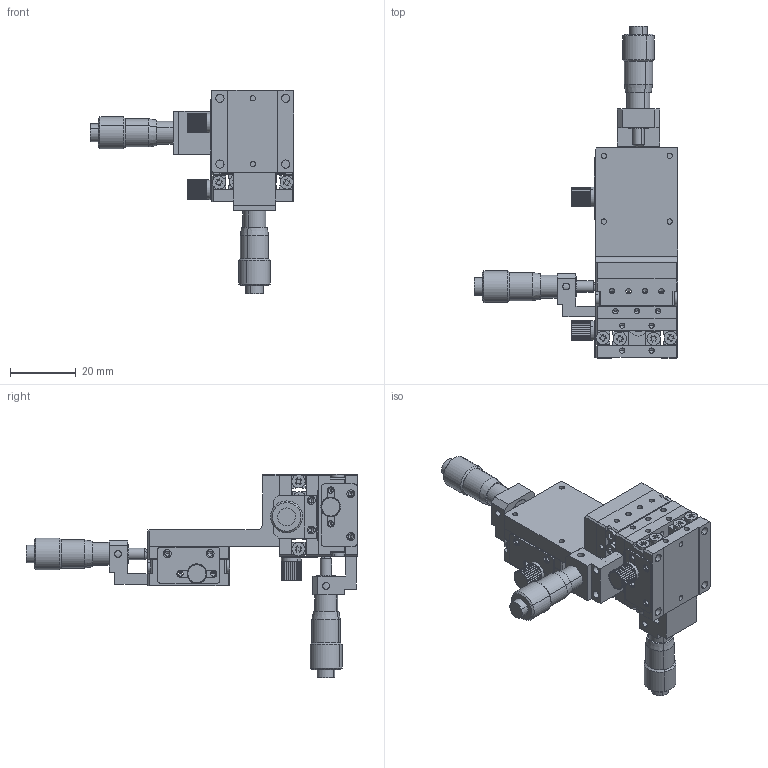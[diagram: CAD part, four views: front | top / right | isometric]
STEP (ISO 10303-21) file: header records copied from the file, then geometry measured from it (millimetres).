
FILE_DESCRIPTION (( 'STEP AP203' ), '1' );
FILE_NAME ('JXYZ-25C-12H.STEP', '2023-03-14T07:49:51', ( '微软用户' ), ( '微软中国' ), 'SwSTEP 2.0', 'SolidWorks 2018', '' );
FILE_SCHEMA (( 'CONFIG_CONTROL_DESIGN' ));
Length unit declared in the file: millimetre
Products named in the file (14): JX-25C(MIR)-12H; JX-25-01奻裔; JALB-71-R    0-6.5埴芛ロ煦喜; JX-25-08 癹弇え; FC-SJ-2 菜え; JZ-25C(MIR)-12H; JX-25-07 L啣; FC-NB-6   幗豪蹟佪; JXYZ-25C-12H; JX-25-02狟裔; JX-25-06 C千分尺固定块; JXY-25C-12H; JX-25C-12H; 蹟佪
Assembly tree (50 placements, depth 4):
  JXYZ-25C-12H
    JXY-25C-12H
      JX-25C-12H
        JX-25-02狟裔
        JX-25-01奻裔
        蹟佪  x8
        JX-25-08 癹弇え
        FC-NB-6   幗豪蹟佪
        FC-SJ-2 菜え
        JALB-71-R    0-6.5埴芛ロ煦喜
        JX-25-06 C千分尺固定块
      JX-25C(MIR)-12H
        JX-25-02狟裔
        JX-25-01奻裔
        蹟佪  x8
        JX-25-08 癹弇え
        FC-NB-6   幗豪蹟佪
        FC-SJ-2 菜え
        JALB-71-R    0-6.5埴芛ロ煦喜
        JX-25-06 C千分尺固定块
    JZ-25C(MIR)-12H
      JX-25-02狟裔
      JX-25-01奻裔
      蹟佪  x8
      JX-25-08 癹弇え
      FC-NB-6   幗豪蹟佪
      FC-SJ-2 菜え
      JALB-71-R    0-6.5埴芛ロ煦喜
      JX-25-06 C千分尺固定块
      JX-25-07 L啣
Bounding box: 62 x 101.01 x 62 mm (x, y, z)
Volume: 32671.8 mm3; surface area: 29354.4 mm2
Topology: 46 solids, 46 shells, 1649 faces, 4374 edges, 2763 vertices
Faces by surface type: cylinder 779, plane 678, cone 186, sphere 6
Entity records: 16284 total; most frequent: DIRECTION 2560, CARTESIAN_POINT 2493, ORIENTED_EDGE 2240, EDGE_CURVE 1120, AXIS2_PLACEMENT_3D 980, VERTEX_POINT 733, VECTOR 600, LINE 600
